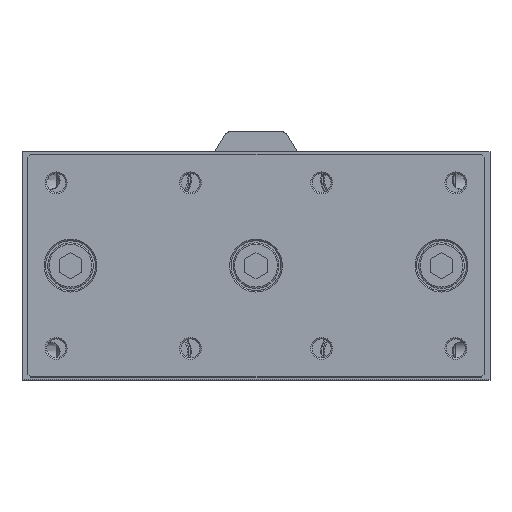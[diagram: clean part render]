
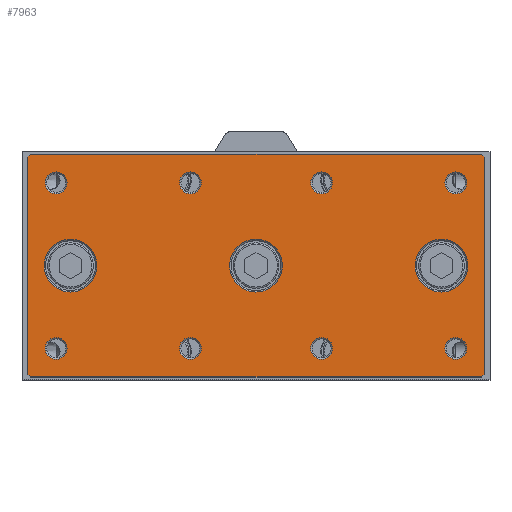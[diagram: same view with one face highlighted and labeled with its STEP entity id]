
A CAD part, top view. The second image highlights one B-rep face of the part: STEP entity #7963.
In plain terms, the highlighted planar face has unit normal (0, 0, 1).
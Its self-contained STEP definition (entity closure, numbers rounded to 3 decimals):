
#7745=CARTESIAN_POINT('',(-78.641,-40.316,150.5));
#7746=VERTEX_POINT('',#7745);
#7747=CARTESIAN_POINT('',(-79.641,-39.316,150.5));
#7748=VERTEX_POINT('',#7747);
#7749=CARTESIAN_POINT('',(-78.641,-40.316,150.5));
#7750=DIRECTION('',(-0.707,0.707,0.0));
#7751=VECTOR('',#7750,1.414);
#7752=LINE('',#7749,#7751);
#7753=EDGE_CURVE('',#7746,#7748,#7752,.T.);
#7780=CARTESIAN_POINT('',(0.359,-1.316,150.5));
#7781=DIRECTION('',(0.0,0.0,1.0));
#7782=DIRECTION('',(1.0,0.0,0.0));
#7783=AXIS2_PLACEMENT_3D('',#7780,#7781,#7782);
#7784=PLANE('',#7783);
#7785=ORIENTED_EDGE('',*,*,#7753,.F.);
#7786=CARTESIAN_POINT('',(79.359,-40.316,150.5));
#7787=VERTEX_POINT('',#7786);
#7788=CARTESIAN_POINT('',(79.359,-40.316,150.5));
#7789=DIRECTION('',(-1.0,0.0,0.0));
#7790=VECTOR('',#7789,158.0);
#7791=LINE('',#7788,#7790);
#7792=EDGE_CURVE('',#7787,#7746,#7791,.T.);
#7793=ORIENTED_EDGE('',*,*,#7792,.F.);
#7794=CARTESIAN_POINT('',(80.359,-39.316,150.5));
#7795=VERTEX_POINT('',#7794);
#7796=CARTESIAN_POINT('',(80.359,-39.316,150.5));
#7797=DIRECTION('',(-0.707,-0.707,0.0));
#7798=VECTOR('',#7797,1.414);
#7799=LINE('',#7796,#7798);
#7800=EDGE_CURVE('',#7795,#7787,#7799,.T.);
#7801=ORIENTED_EDGE('',*,*,#7800,.F.);
#7802=CARTESIAN_POINT('',(80.359,36.684,150.5));
#7803=VERTEX_POINT('',#7802);
#7804=CARTESIAN_POINT('',(80.359,36.684,150.5));
#7805=DIRECTION('',(0.0,-1.0,0.0));
#7806=VECTOR('',#7805,76.);
#7807=LINE('',#7804,#7806);
#7808=EDGE_CURVE('',#7803,#7795,#7807,.T.);
#7809=ORIENTED_EDGE('',*,*,#7808,.F.);
#7810=CARTESIAN_POINT('',(79.359,37.684,150.5));
#7811=VERTEX_POINT('',#7810);
#7812=CARTESIAN_POINT('',(79.359,37.684,150.5));
#7813=DIRECTION('',(0.707,-0.707,0.0));
#7814=VECTOR('',#7813,1.414);
#7815=LINE('',#7812,#7814);
#7816=EDGE_CURVE('',#7811,#7803,#7815,.T.);
#7817=ORIENTED_EDGE('',*,*,#7816,.F.);
#7818=CARTESIAN_POINT('',(-78.641,37.684,150.5));
#7819=VERTEX_POINT('',#7818);
#7820=CARTESIAN_POINT('',(-78.641,37.684,150.5));
#7821=DIRECTION('',(1.0,0.0,0.0));
#7822=VECTOR('',#7821,158.0);
#7823=LINE('',#7820,#7822);
#7824=EDGE_CURVE('',#7819,#7811,#7823,.T.);
#7825=ORIENTED_EDGE('',*,*,#7824,.F.);
#7826=CARTESIAN_POINT('',(-79.641,36.684,150.5));
#7827=VERTEX_POINT('',#7826);
#7828=CARTESIAN_POINT('',(-79.641,36.684,150.5));
#7829=DIRECTION('',(0.707,0.707,0.0));
#7830=VECTOR('',#7829,1.414);
#7831=LINE('',#7828,#7830);
#7832=EDGE_CURVE('',#7827,#7819,#7831,.T.);
#7833=ORIENTED_EDGE('',*,*,#7832,.F.);
#7834=CARTESIAN_POINT('',(-79.641,-39.316,150.5));
#7835=DIRECTION('',(0.0,1.0,0.0));
#7836=VECTOR('',#7835,76.0);
#7837=LINE('',#7834,#7836);
#7838=EDGE_CURVE('',#7748,#7827,#7837,.T.);
#7839=ORIENTED_EDGE('',*,*,#7838,.F.);
#7840=EDGE_LOOP('',(#7785,#7793,#7801,#7809,#7817,#7825,#7833,#7839));
#7841=FACE_OUTER_BOUND('',#7840,.T.);
#7842=CARTESIAN_POINT('',(-65.818,27.684,150.5));
#7843=VERTEX_POINT('',#7842);
#7844=CARTESIAN_POINT('',(-69.641,27.684,150.5));
#7845=DIRECTION('',(0.0,0.0,1.0));
#7846=DIRECTION('',(-1.0,0.0,0.0));
#7847=AXIS2_PLACEMENT_3D('',#7844,#7845,#7846);
#7848=CIRCLE('',#7847,3.823);
#7849=EDGE_CURVE('',#7843,#7843,#7848,.T.);
#7850=ORIENTED_EDGE('',*,*,#7849,.F.);
#7851=EDGE_LOOP('',(#7850));
#7852=FACE_BOUND('',#7851,.T.);
#7853=CARTESIAN_POINT('',(-18.818,27.684,150.5));
#7854=VERTEX_POINT('',#7853);
#7855=CARTESIAN_POINT('',(-22.641,27.684,150.5));
#7856=DIRECTION('',(0.0,0.0,1.0));
#7857=DIRECTION('',(-1.0,0.0,0.0));
#7858=AXIS2_PLACEMENT_3D('',#7855,#7856,#7857);
#7859=CIRCLE('',#7858,3.823);
#7860=EDGE_CURVE('',#7854,#7854,#7859,.T.);
#7861=ORIENTED_EDGE('',*,*,#7860,.F.);
#7862=EDGE_LOOP('',(#7861));
#7863=FACE_BOUND('',#7862,.T.);
#7864=CARTESIAN_POINT('',(9.609,-1.316,150.5));
#7865=VERTEX_POINT('',#7864);
#7866=CARTESIAN_POINT('',(0.359,-1.316,150.5));
#7867=DIRECTION('',(0.0,0.0,1.0));
#7868=DIRECTION('',(-1.0,0.0,0.0));
#7869=AXIS2_PLACEMENT_3D('',#7866,#7867,#7868);
#7870=CIRCLE('',#7869,9.25);
#7871=EDGE_CURVE('',#7865,#7865,#7870,.T.);
#7872=ORIENTED_EDGE('',*,*,#7871,.F.);
#7873=EDGE_LOOP('',(#7872));
#7874=FACE_BOUND('',#7873,.T.);
#7875=CARTESIAN_POINT('',(74.609,-1.316,150.5));
#7876=VERTEX_POINT('',#7875);
#7877=CARTESIAN_POINT('',(65.359,-1.316,150.5));
#7878=DIRECTION('',(0.0,0.0,1.0));
#7879=DIRECTION('',(-1.0,0.0,0.0));
#7880=AXIS2_PLACEMENT_3D('',#7877,#7878,#7879);
#7881=CIRCLE('',#7880,9.25);
#7882=EDGE_CURVE('',#7876,#7876,#7881,.T.);
#7883=ORIENTED_EDGE('',*,*,#7882,.F.);
#7884=EDGE_LOOP('',(#7883));
#7885=FACE_BOUND('',#7884,.T.);
#7886=CARTESIAN_POINT('',(-55.391,-1.316,150.5));
#7887=VERTEX_POINT('',#7886);
#7888=CARTESIAN_POINT('',(-64.641,-1.316,150.5));
#7889=DIRECTION('',(0.0,0.0,1.0));
#7890=DIRECTION('',(-1.0,0.0,0.0));
#7891=AXIS2_PLACEMENT_3D('',#7888,#7889,#7890);
#7892=CIRCLE('',#7891,9.25);
#7893=EDGE_CURVE('',#7887,#7887,#7892,.T.);
#7894=ORIENTED_EDGE('',*,*,#7893,.F.);
#7895=EDGE_LOOP('',(#7894));
#7896=FACE_BOUND('',#7895,.T.);
#7897=CARTESIAN_POINT('',(74.182,-30.316,150.5));
#7898=VERTEX_POINT('',#7897);
#7899=CARTESIAN_POINT('',(70.359,-30.316,150.5));
#7900=DIRECTION('',(0.0,0.0,1.0));
#7901=DIRECTION('',(-1.0,0.0,0.0));
#7902=AXIS2_PLACEMENT_3D('',#7899,#7900,#7901);
#7903=CIRCLE('',#7902,3.823);
#7904=EDGE_CURVE('',#7898,#7898,#7903,.T.);
#7905=ORIENTED_EDGE('',*,*,#7904,.F.);
#7906=EDGE_LOOP('',(#7905));
#7907=FACE_BOUND('',#7906,.T.);
#7908=CARTESIAN_POINT('',(-65.818,-30.316,150.5));
#7909=VERTEX_POINT('',#7908);
#7910=CARTESIAN_POINT('',(-69.641,-30.316,150.5));
#7911=DIRECTION('',(0.0,0.0,1.0));
#7912=DIRECTION('',(-1.0,0.0,0.0));
#7913=AXIS2_PLACEMENT_3D('',#7910,#7911,#7912);
#7914=CIRCLE('',#7913,3.823);
#7915=EDGE_CURVE('',#7909,#7909,#7914,.T.);
#7916=ORIENTED_EDGE('',*,*,#7915,.F.);
#7917=EDGE_LOOP('',(#7916));
#7918=FACE_BOUND('',#7917,.T.);
#7919=CARTESIAN_POINT('',(74.182,27.684,150.5));
#7920=VERTEX_POINT('',#7919);
#7921=CARTESIAN_POINT('',(70.359,27.684,150.5));
#7922=DIRECTION('',(0.0,0.0,1.0));
#7923=DIRECTION('',(-1.0,0.0,0.0));
#7924=AXIS2_PLACEMENT_3D('',#7921,#7922,#7923);
#7925=CIRCLE('',#7924,3.823);
#7926=EDGE_CURVE('',#7920,#7920,#7925,.T.);
#7927=ORIENTED_EDGE('',*,*,#7926,.F.);
#7928=EDGE_LOOP('',(#7927));
#7929=FACE_BOUND('',#7928,.T.);
#7930=CARTESIAN_POINT('',(27.182,-30.316,150.5));
#7931=VERTEX_POINT('',#7930);
#7932=CARTESIAN_POINT('',(23.359,-30.316,150.5));
#7933=DIRECTION('',(0.0,0.0,1.0));
#7934=DIRECTION('',(-1.0,0.0,0.0));
#7935=AXIS2_PLACEMENT_3D('',#7932,#7933,#7934);
#7936=CIRCLE('',#7935,3.824);
#7937=EDGE_CURVE('',#7931,#7931,#7936,.T.);
#7938=ORIENTED_EDGE('',*,*,#7937,.F.);
#7939=EDGE_LOOP('',(#7938));
#7940=FACE_BOUND('',#7939,.T.);
#7941=CARTESIAN_POINT('',(-18.818,-30.316,150.5));
#7942=VERTEX_POINT('',#7941);
#7943=CARTESIAN_POINT('',(-22.641,-30.316,150.5));
#7944=DIRECTION('',(0.0,0.0,1.0));
#7945=DIRECTION('',(-1.0,0.0,0.0));
#7946=AXIS2_PLACEMENT_3D('',#7943,#7944,#7945);
#7947=CIRCLE('',#7946,3.823);
#7948=EDGE_CURVE('',#7942,#7942,#7947,.T.);
#7949=ORIENTED_EDGE('',*,*,#7948,.F.);
#7950=EDGE_LOOP('',(#7949));
#7951=FACE_BOUND('',#7950,.T.);
#7952=CARTESIAN_POINT('',(27.182,27.684,150.5));
#7953=VERTEX_POINT('',#7952);
#7954=CARTESIAN_POINT('',(23.359,27.684,150.5));
#7955=DIRECTION('',(0.0,0.0,1.0));
#7956=DIRECTION('',(-1.0,0.0,0.0));
#7957=AXIS2_PLACEMENT_3D('',#7954,#7955,#7956);
#7958=CIRCLE('',#7957,3.824);
#7959=EDGE_CURVE('',#7953,#7953,#7958,.T.);
#7960=ORIENTED_EDGE('',*,*,#7959,.F.);
#7961=EDGE_LOOP('',(#7960));
#7962=FACE_BOUND('',#7961,.T.);
#7963=ADVANCED_FACE('',(#7841,#7852,#7863,#7874,#7885,#7896,#7907,#7918,#7929,#7940,#7951,#7962),#7784,.T.);
